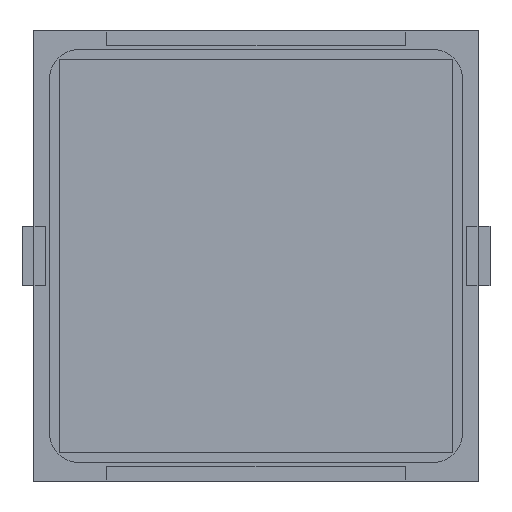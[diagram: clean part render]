
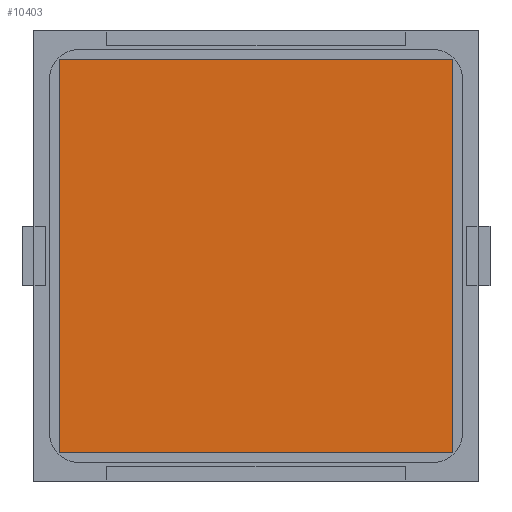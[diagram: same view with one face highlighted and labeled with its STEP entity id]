
A CAD part, front view. The second image highlights one B-rep face of the part: STEP entity #10403.
In plain terms, the highlighted planar face has unit normal (0, -1, 0).
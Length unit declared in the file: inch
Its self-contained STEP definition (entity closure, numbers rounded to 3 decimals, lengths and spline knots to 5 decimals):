
#918 = VERTEX_POINT ( 'NONE', #6108 ) ;
#1016 = CARTESIAN_POINT ( 'NONE',  ( 0.64961, -0.005, -0.64961 ) ) ;
#1948 = EDGE_LOOP ( 'NONE', ( #9160, #7972, #2584, #5661 ) ) ;
#2103 = DIRECTION ( 'NONE',  ( 0., 0., 1. ) ) ;
#2410 = EDGE_CURVE ( 'NONE', #5512, #918, #3650, .T. ) ;
#2584 = ORIENTED_EDGE ( 'NONE', *, *, #2410, .F. ) ;
#2867 = VECTOR ( 'NONE', #4128, 39.37008 ) ;
#2874 = DIRECTION ( 'NONE',  ( 0., 0., 1. ) ) ;
#3364 = CARTESIAN_POINT ( 'NONE',  ( -0.64961, -0.005, 0.64961 ) ) ;
#3443 = AXIS2_PLACEMENT_3D ( 'NONE', #8955, #7906, #2874 ) ;
#3650 = LINE ( 'NONE', #1016, #3871 ) ;
#3871 = VECTOR ( 'NONE', #4364, 39.37008 ) ;
#4128 = DIRECTION ( 'NONE',  ( 1., 0., 0. ) ) ;
#4294 = CARTESIAN_POINT ( 'NONE',  ( -0.64961, -0.005, -0.64961 ) ) ;
#4342 = LINE ( 'NONE', #4294, #10300 ) ;
#4364 = DIRECTION ( 'NONE',  ( 0., 0., -1. ) ) ;
#4697 = CARTESIAN_POINT ( 'NONE',  ( -0.64961, -0.005, -0.64961 ) ) ;
#4884 = CARTESIAN_POINT ( 'NONE',  ( -0.64961, -0.005, 0.64961 ) ) ;
#4947 = LINE ( 'NONE', #4884, #2867 ) ;
#5453 = VERTEX_POINT ( 'NONE', #9266 ) ;
#5512 = VERTEX_POINT ( 'NONE', #9596 ) ;
#5528 = LINE ( 'NONE', #4697, #8349 ) ;
#5661 = ORIENTED_EDGE ( 'NONE', *, *, #6319, .F. ) ;
#5827 = DIRECTION ( 'NONE',  ( -1., 0., 0. ) ) ;
#6108 = CARTESIAN_POINT ( 'NONE',  ( 0.64961, -0.005, -0.64961 ) ) ;
#6198 = VERTEX_POINT ( 'NONE', #3364 ) ;
#6319 = EDGE_CURVE ( 'NONE', #6198, #5512, #4947, .T. ) ;
#6407 = EDGE_CURVE ( 'NONE', #918, #5453, #4342, .T. ) ;
#7018 = FACE_OUTER_BOUND ( 'NONE', #1948, .T. ) ;
#7906 = DIRECTION ( 'NONE',  ( 0., 1., 0. ) ) ;
#7972 = ORIENTED_EDGE ( 'NONE', *, *, #6407, .F. ) ;
#8349 = VECTOR ( 'NONE', #2103, 39.37008 ) ;
#8584 = PLANE ( 'NONE',  #3443 ) ;
#8955 = CARTESIAN_POINT ( 'NONE',  ( -0.64961, -0.005, 0.64961 ) ) ;
#9160 = ORIENTED_EDGE ( 'NONE', *, *, #9592, .F. ) ;
#9266 = CARTESIAN_POINT ( 'NONE',  ( -0.64961, -0.005, -0.64961 ) ) ;
#9592 = EDGE_CURVE ( 'NONE', #5453, #6198, #5528, .T. ) ;
#9596 = CARTESIAN_POINT ( 'NONE',  ( 0.64961, -0.005, 0.64961 ) ) ;
#10300 = VECTOR ( 'NONE', #5827, 39.37008 ) ;
#10403 = ADVANCED_FACE ( 'NONE', ( #7018 ), #8584, .F. ) ;
